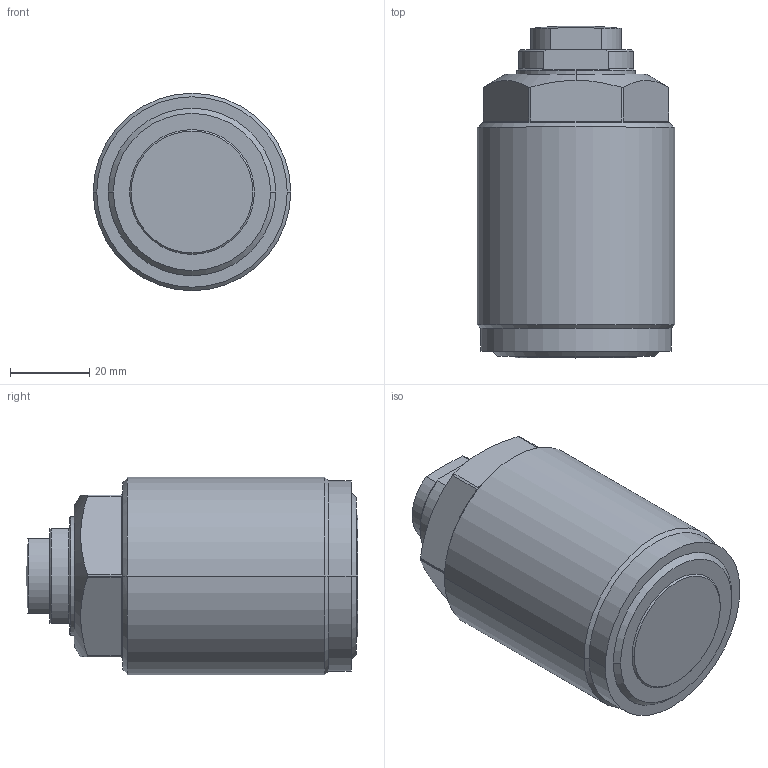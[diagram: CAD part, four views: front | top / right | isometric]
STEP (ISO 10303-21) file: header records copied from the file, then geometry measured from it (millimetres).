
FILE_DESCRIPTION(/* description */ (''),/* implementation_level */ '2;1');
FILE_NAME(/* name */ 'PGSC16-L.stp',/* time_stamp */ '2025-01-05T10:56:38+08:00',/* author */ (''),/* organization */ (''),/* preprocessor_version */ 'ST-DEVELOPER v16.7',/* originating_system */ 'SIEMENS PLM Software NX 12.0',/* authorisation */ '');
FILE_SCHEMA (('AUTOMOTIVE_DESIGN { 1 0 10303 214 3 1 1 1 }'));
Length unit declared in the file: millimetre
Products named in the file (4): PGSC16-L-03; PGSC16-L-02; PGSC16-L-01; CSW16M-L_step
Assembly tree (3 placements, depth 2):
  CSW16M-L_step
    PGSC16-L-01
    PGSC16-L-02
    PGSC16-L-03
Bounding box: 50 x 84 x 50 mm (x, y, z)
Volume: 136696.9 mm3; surface area: 20386.8 mm2
Topology: 3 solids, 3 shells, 91 faces, 216 edges, 138 vertices
Faces by surface type: cylinder 35, plane 30, cone 20, torus 4, sphere 2
Entity records: 3011 total; most frequent: CARTESIAN_POINT 793, DIRECTION 467, ORIENTED_EDGE 432, EDGE_CURVE 216, AXIS2_PLACEMENT_3D 196, VERTEX_POINT 138, CIRCLE 101, EDGE_LOOP 100
